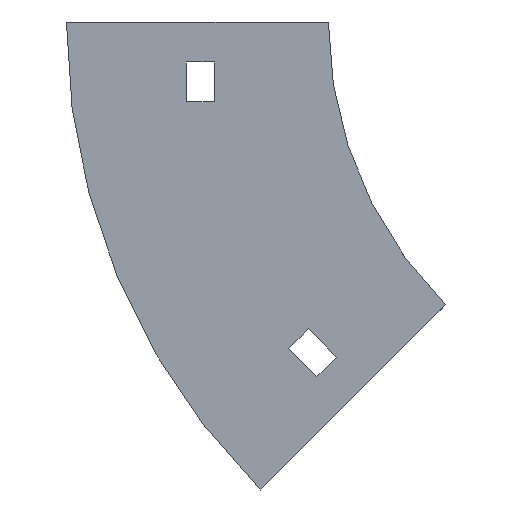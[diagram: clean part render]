
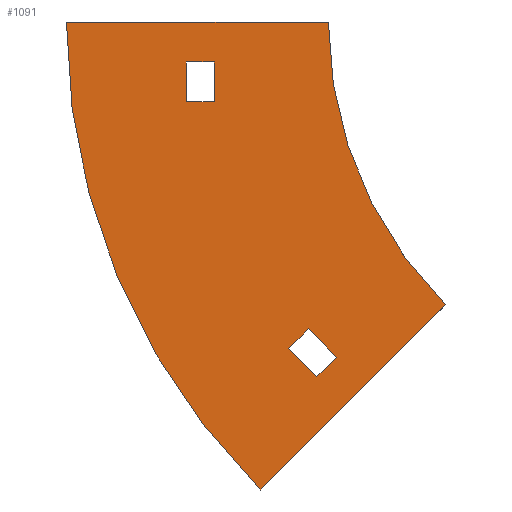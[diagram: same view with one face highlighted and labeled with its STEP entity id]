
A CAD part, left-side view. The second image highlights one B-rep face of the part: STEP entity #1091.
In plain terms, the highlighted planar face has unit normal (-1, 0, 0).
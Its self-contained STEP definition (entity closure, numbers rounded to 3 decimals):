
#6 = VERTEX_POINT ( 'NONE', #26 ) ;
#12 = CARTESIAN_POINT ( 'NONE',  ( -77., -29.289, -70.711 ) ) ;
#26 = CARTESIAN_POINT ( 'NONE',  ( -77., 65.5, 0. ) ) ;
#65 = VECTOR ( 'NONE', #1046, 1000. ) ;
#79 = DIRECTION ( 'NONE',  ( 1., 0., 0. ) ) ;
#114 = VECTOR ( 'NONE', #437, 1000. ) ;
#135 = EDGE_CURVE ( 'NONE', #198, #767, #276, .T. ) ;
#137 = AXIS2_PLACEMENT_3D ( 'NONE', #248, #323, #1029 ) ;
#144 = LINE ( 'NONE', #237, #995 ) ;
#158 = CARTESIAN_POINT ( 'NONE',  ( -77., 9.955, -81.671 ) ) ;
#172 = DIRECTION ( 'NONE',  ( 0., 1., 0. ) ) ;
#176 = VECTOR ( 'NONE', #974, 1000. ) ;
#180 = VERTEX_POINT ( 'NONE', #158 ) ;
#187 = VERTEX_POINT ( 'NONE', #224 ) ;
#195 = VECTOR ( 'NONE', #369, 1000. ) ;
#198 = VERTEX_POINT ( 'NONE', #572 ) ;
#199 = VERTEX_POINT ( 'NONE', #924 ) ;
#214 = ORIENTED_EDGE ( 'NONE', *, *, #1150, .F. ) ;
#222 = VERTEX_POINT ( 'NONE', #734 ) ;
#224 = CARTESIAN_POINT ( 'NONE',  ( -77., 5.005, -76.721 ) ) ;
#237 = CARTESIAN_POINT ( 'NONE',  ( -77., 2.884, -88.742 ) ) ;
#248 = CARTESIAN_POINT ( 'NONE',  ( -77., -100., 0. ) ) ;
#254 = FACE_OUTER_BOUND ( 'NONE', #1033, .T. ) ;
#261 = FACE_BOUND ( 'NONE', #1000, .T. ) ;
#268 = LINE ( 'NONE', #619, #176 ) ;
#272 = EDGE_CURVE ( 'NONE', #222, #198, #387, .T. ) ;
#276 = LINE ( 'NONE', #979, #293 ) ;
#281 = ORIENTED_EDGE ( 'NONE', *, *, #272, .T. ) ;
#293 = VECTOR ( 'NONE', #172, 1000. ) ;
#312 = CARTESIAN_POINT ( 'NONE',  ( -77., 2.884, -88.742 ) ) ;
#323 = DIRECTION ( 'NONE',  ( -1., 0., 0. ) ) ;
#353 = ORIENTED_EDGE ( 'NONE', *, *, #609, .F. ) ;
#363 = ORIENTED_EDGE ( 'NONE', *, *, #493, .T. ) ;
#369 = DIRECTION ( 'NONE',  ( 0., -1., 0. ) ) ;
#387 = LINE ( 'NONE', #835, #686 ) ;
#396 = EDGE_CURVE ( 'NONE', #199, #187, #826, .T. ) ;
#408 = CARTESIAN_POINT ( 'NONE',  ( -77., 35.5, -10. ) ) ;
#411 = LINE ( 'NONE', #678, #694 ) ;
#437 = DIRECTION ( 'NONE',  ( 0., 0., 1. ) ) ;
#438 = DIRECTION ( 'NONE',  ( 0., 0., 1. ) ) ;
#479 = CARTESIAN_POINT ( 'NONE',  ( -77., 17.026, -117.026 ) ) ;
#484 = AXIS2_PLACEMENT_3D ( 'NONE', #870, #79, #438 ) ;
#493 = EDGE_CURVE ( 'NONE', #767, #714, #877, .T. ) ;
#503 = VECTOR ( 'NONE', #927, 1000. ) ;
#538 = AXIS2_PLACEMENT_3D ( 'NONE', #607, #847, #599 ) ;
#548 = ORIENTED_EDGE ( 'NONE', *, *, #396, .F. ) ;
#561 = CARTESIAN_POINT ( 'NONE',  ( -77., -2.066, -83.792 ) ) ;
#563 = VERTEX_POINT ( 'NONE', #479 ) ;
#572 = CARTESIAN_POINT ( 'NONE',  ( -77., 28.5, -20. ) ) ;
#574 = EDGE_CURVE ( 'NONE', #714, #222, #1137, .T. ) ;
#599 = DIRECTION ( 'NONE',  ( 0., 0., 1. ) ) ;
#603 = PLANE ( 'NONE',  #538 ) ;
#606 = LINE ( 'NONE', #962, #195 ) ;
#607 = CARTESIAN_POINT ( 'NONE',  ( -77., -100., 0. ) ) ;
#609 = EDGE_CURVE ( 'NONE', #1014, #563, #268, .T. ) ;
#613 = EDGE_CURVE ( 'NONE', #6, #938, #606, .T. ) ;
#619 = CARTESIAN_POINT ( 'NONE',  ( -77., -29.289, -70.711 ) ) ;
#651 = ORIENTED_EDGE ( 'NONE', *, *, #1151, .F. ) ;
#662 = ORIENTED_EDGE ( 'NONE', *, *, #574, .T. ) ;
#678 = CARTESIAN_POINT ( 'NONE',  ( -77., 2.884, -88.742 ) ) ;
#686 = VECTOR ( 'NONE', #823, 1000. ) ;
#694 = VECTOR ( 'NONE', #948, 1000. ) ;
#713 = VECTOR ( 'NONE', #1073, 1000. ) ;
#714 = VERTEX_POINT ( 'NONE', #761 ) ;
#720 = EDGE_CURVE ( 'NONE', #180, #806, #144, .T. ) ;
#734 = CARTESIAN_POINT ( 'NONE',  ( -77., 28.5, -10. ) ) ;
#745 = ORIENTED_EDGE ( 'NONE', *, *, #1133, .F. ) ;
#761 = CARTESIAN_POINT ( 'NONE',  ( -77., 35.5, -10. ) ) ;
#767 = VERTEX_POINT ( 'NONE', #952 ) ;
#806 = VERTEX_POINT ( 'NONE', #312 ) ;
#817 = ORIENTED_EDGE ( 'NONE', *, *, #720, .F. ) ;
#823 = DIRECTION ( 'NONE',  ( 0., 0., -1. ) ) ;
#826 = LINE ( 'NONE', #561, #503 ) ;
#831 = EDGE_LOOP ( 'NONE', ( #548, #745, #817, #960 ) ) ;
#835 = CARTESIAN_POINT ( 'NONE',  ( -77., 28.5, -10. ) ) ;
#847 = DIRECTION ( 'NONE',  ( -1., 0., 0. ) ) ;
#861 = ORIENTED_EDGE ( 'NONE', *, *, #613, .F. ) ;
#870 = CARTESIAN_POINT ( 'NONE',  ( -77., -100., 0. ) ) ;
#877 = LINE ( 'NONE', #953, #114 ) ;
#880 = ORIENTED_EDGE ( 'NONE', *, *, #135, .T. ) ;
#904 = CIRCLE ( 'NONE', #484, 165.5 ) ;
#924 = CARTESIAN_POINT ( 'NONE',  ( -77., -2.066, -83.792 ) ) ;
#927 = DIRECTION ( 'NONE',  ( 0., 0.707, 0.707 ) ) ;
#937 = DIRECTION ( 'NONE',  ( 0., -0.707, -0.707 ) ) ;
#938 = VERTEX_POINT ( 'NONE', #1141 ) ;
#948 = DIRECTION ( 'NONE',  ( 0., -0.707, 0.707 ) ) ;
#952 = CARTESIAN_POINT ( 'NONE',  ( -77., 35.5, -20. ) ) ;
#953 = CARTESIAN_POINT ( 'NONE',  ( -77., 35.5, -10. ) ) ;
#960 = ORIENTED_EDGE ( 'NONE', *, *, #973, .F. ) ;
#962 = CARTESIAN_POINT ( 'NONE',  ( -77., 65.5, 0. ) ) ;
#970 = CIRCLE ( 'NONE', #137, 100. ) ;
#973 = EDGE_CURVE ( 'NONE', #187, #180, #1096, .T. ) ;
#974 = DIRECTION ( 'NONE',  ( 0., 0.707, -0.707 ) ) ;
#979 = CARTESIAN_POINT ( 'NONE',  ( -77., 35.5, -20. ) ) ;
#995 = VECTOR ( 'NONE', #937, 1000. ) ;
#999 = CARTESIAN_POINT ( 'NONE',  ( -77., 9.955, -81.671 ) ) ;
#1000 = EDGE_LOOP ( 'NONE', ( #662, #281, #880, #363 ) ) ;
#1014 = VERTEX_POINT ( 'NONE', #12 ) ;
#1029 = DIRECTION ( 'NONE',  ( 0., 0., 1. ) ) ;
#1033 = EDGE_LOOP ( 'NONE', ( #214, #861, #651, #353 ) ) ;
#1046 = DIRECTION ( 'NONE',  ( 0., -1., 0. ) ) ;
#1051 = FACE_BOUND ( 'NONE', #831, .T. ) ;
#1073 = DIRECTION ( 'NONE',  ( 0., 0.707, -0.707 ) ) ;
#1091 = ADVANCED_FACE ( 'NONE', ( #261, #254, #1051 ), #603, .T. ) ;
#1096 = LINE ( 'NONE', #999, #713 ) ;
#1133 = EDGE_CURVE ( 'NONE', #806, #199, #411, .T. ) ;
#1137 = LINE ( 'NONE', #408, #65 ) ;
#1141 = CARTESIAN_POINT ( 'NONE',  ( -77., 0., 0. ) ) ;
#1150 = EDGE_CURVE ( 'NONE', #938, #1014, #970, .T. ) ;
#1151 = EDGE_CURVE ( 'NONE', #563, #6, #904, .T. ) ;
